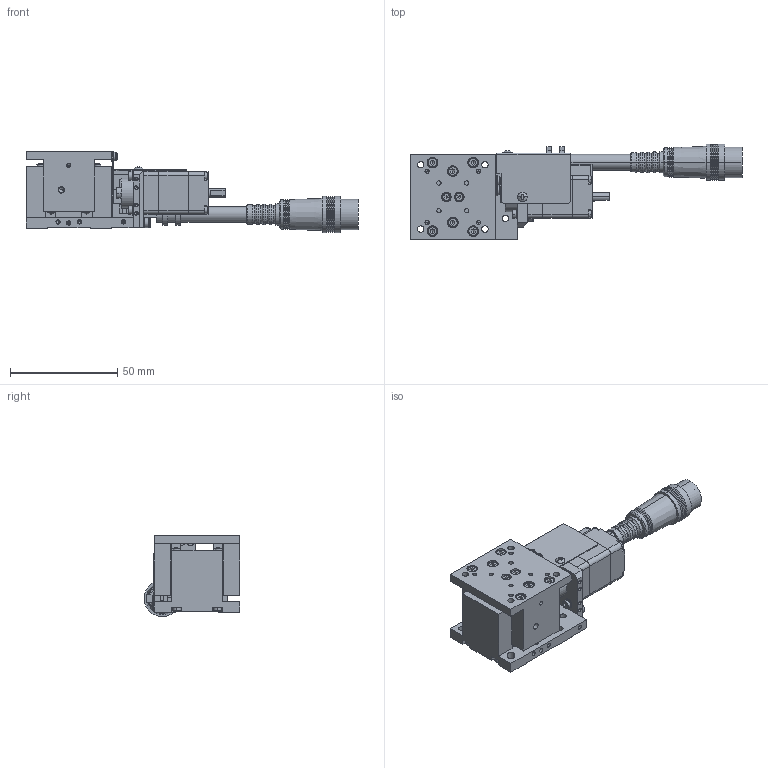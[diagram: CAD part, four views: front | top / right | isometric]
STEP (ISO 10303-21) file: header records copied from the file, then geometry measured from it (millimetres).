
FILE_DESCRIPTION (( 'STEP AP203' ), '1' );
FILE_NAME ('ZA04A-W101.STEP', '2019-02-21T00:45:31', ( '' ), ( '' ), 'SwSTEP 2.0', 'SolidWorks 2018', '' );
FILE_SCHEMA (( 'CONFIG_CONTROL_DESIGN' ));
Length unit declared in the file: millimetre
Products named in the file (8): ZA04A-W101; base; base-Part-2; base-Part-3; table; base-Part-1; base-Part-4; base-Part-5
Assembly tree (7 placements, depth 3):
  ZA04A-W101
    base
      base-Part-1
      base-Part-2
      base-Part-3
      base-Part-4
      base-Part-5
    table
Bounding box: 155 x 44.7 x 38 mm (x, y, z)
Volume: 72815.5 mm3; surface area: 32843 mm2
Topology: 6 solids, 6 shells, 1541 faces, 3727 edges, 2251 vertices
Faces by surface type: plane 912, cylinder 337, cone 210, torus 52, sphere 30
Entity records: 45067 total; most frequent: DIRECTION 8039, CARTESIAN_POINT 7640, ORIENTED_EDGE 7290, EDGE_CURVE 3645, AXIS2_PLACEMENT_3D 2864, VECTOR 2311, LINE 2311, VERTEX_POINT 2249
